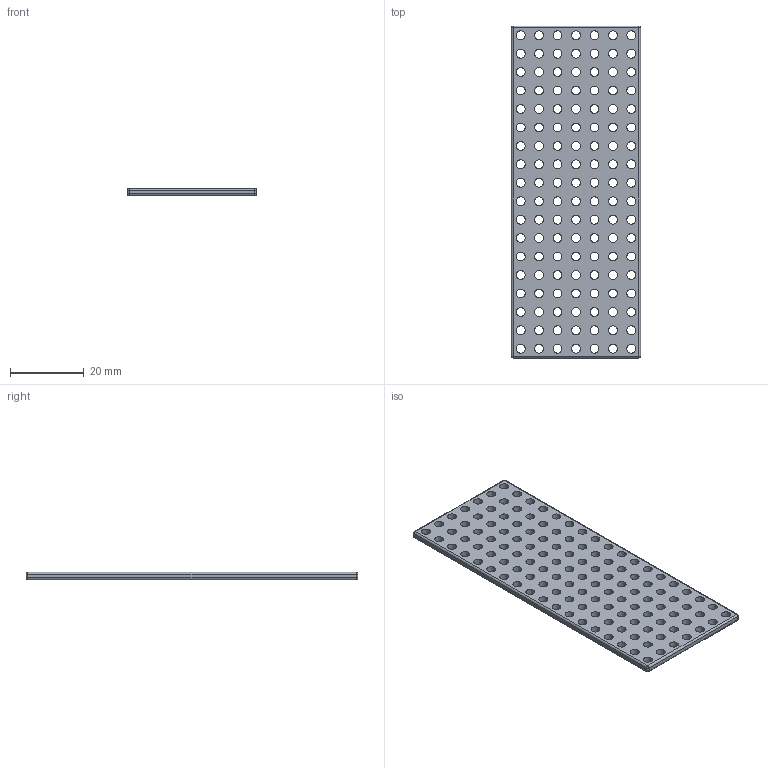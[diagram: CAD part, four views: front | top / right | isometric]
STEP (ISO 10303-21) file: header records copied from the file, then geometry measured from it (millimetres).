
FILE_DESCRIPTION(/* description */ (''),/* implementation_level */ '2;1');
FILE_NAME(/* name */ 'Plate90x35 v2.step',/* time_stamp */ '2025-10-09T06:00:32+02:00',/* author */ (''),/* organization */ (''),/* preprocessor_version */ 'ST-DEVELOPER v20.1',/* originating_system */ 'Autodesk Translation Framework v14.17.0.0',/* authorisation */ '');
FILE_SCHEMA (('AUTOMOTIVE_DESIGN { 1 0 10303 214 3 1 1 }'));
Length unit declared in the file: millimetre
Products named in the file (1): Plate90x35
Bounding box: 35 x 90 x 2 mm (x, y, z)
Volume: 5132.9 mm3; surface area: 7450.7 mm2
Topology: 1 solids, 1 shells, 152 faces, 426 edges, 276 vertices
Faces by surface type: cylinder 138, sphere 8, plane 6
Full cylindrical faces by diameter (mm): 2.4 x126
Entity records: 5571 total; most frequent: DIRECTION 1008, CARTESIAN_POINT 855, ORIENTED_EDGE 852, AXIS2_PLACEMENT_3D 429, EDGE_CURVE 426, EDGE_LOOP 404, CIRCLE 276, VERTEX_POINT 276
